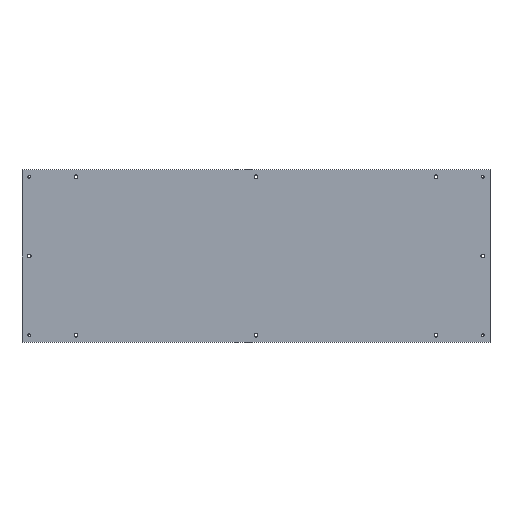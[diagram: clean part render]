
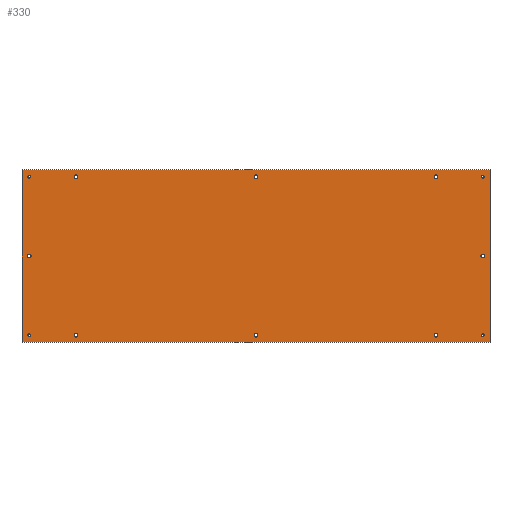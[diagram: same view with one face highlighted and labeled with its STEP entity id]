
A CAD part, top view. The second image highlights one B-rep face of the part: STEP entity #330.
In plain terms, the highlighted planar face has unit normal (0, 0, 1).
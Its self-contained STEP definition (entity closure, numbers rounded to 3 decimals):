
#55=AXIS2_PLACEMENT_3D('Circle Axis2P3D',#53,#54,$) ;
#79=AXIS2_PLACEMENT_3D('Circle Axis2P3D',#77,#78,$) ;
#92=AXIS2_PLACEMENT_3D('Plane Axis2P3D',#89,#90,#91) ;
#130=AXIS2_PLACEMENT_3D('Circle Axis2P3D',#128,#129,$) ;
#139=AXIS2_PLACEMENT_3D('Circle Axis2P3D',#137,#138,$) ;
#148=AXIS2_PLACEMENT_3D('Circle Axis2P3D',#146,#147,$) ;
#157=AXIS2_PLACEMENT_3D('Circle Axis2P3D',#155,#156,$) ;
#166=AXIS2_PLACEMENT_3D('Circle Axis2P3D',#164,#165,$) ;
#175=AXIS2_PLACEMENT_3D('Circle Axis2P3D',#173,#174,$) ;
#184=AXIS2_PLACEMENT_3D('Circle Axis2P3D',#182,#183,$) ;
#193=AXIS2_PLACEMENT_3D('Circle Axis2P3D',#191,#192,$) ;
#206=AXIS2_PLACEMENT_3D('Circle Axis2P3D',#204,#205,$) ;
#215=AXIS2_PLACEMENT_3D('Circle Axis2P3D',#213,#214,$) ;
#224=AXIS2_PLACEMENT_3D('Circle Axis2P3D',#222,#223,$) ;
#233=AXIS2_PLACEMENT_3D('Circle Axis2P3D',#231,#232,$) ;
#242=AXIS2_PLACEMENT_3D('Circle Axis2P3D',#240,#241,$) ;
#251=AXIS2_PLACEMENT_3D('Circle Axis2P3D',#249,#250,$) ;
#260=AXIS2_PLACEMENT_3D('Circle Axis2P3D',#258,#259,$) ;
#269=AXIS2_PLACEMENT_3D('Circle Axis2P3D',#267,#268,$) ;
#278=AXIS2_PLACEMENT_3D('Circle Axis2P3D',#276,#277,$) ;
#287=AXIS2_PLACEMENT_3D('Circle Axis2P3D',#285,#286,$) ;
#296=AXIS2_PLACEMENT_3D('Circle Axis2P3D',#294,#295,$) ;
#305=AXIS2_PLACEMENT_3D('Circle Axis2P3D',#303,#304,$) ;
#314=AXIS2_PLACEMENT_3D('Circle Axis2P3D',#312,#313,$) ;
#323=AXIS2_PLACEMENT_3D('Circle Axis2P3D',#321,#322,$) ;
#50=CARTESIAN_POINT('Vertex',(7.25,-120.,2.)) ;
#53=CARTESIAN_POINT('Axis2P3D Location',(10.,-120.,2.)) ;
#57=CARTESIAN_POINT('Vertex',(12.75,-120.,2.)) ;
#77=CARTESIAN_POINT('Axis2P3D Location',(10.,-120.,2.)) ;
#89=CARTESIAN_POINT('Axis2P3D Location',(0.,0.,2.)) ;
#94=CARTESIAN_POINT('Line Origine',(0.,-120.,2.)) ;
#98=CARTESIAN_POINT('Vertex',(0.,0.,2.)) ;
#100=CARTESIAN_POINT('Vertex',(0.,-240.,2.)) ;
#103=CARTESIAN_POINT('Line Origine',(325.,-240.,2.)) ;
#107=CARTESIAN_POINT('Vertex',(650.,-240.,2.)) ;
#110=CARTESIAN_POINT('Line Origine',(650.,-120.,2.)) ;
#114=CARTESIAN_POINT('Vertex',(650.,0.,2.)) ;
#117=CARTESIAN_POINT('Line Origine',(325.,0.,2.)) ;
#128=CARTESIAN_POINT('Axis2P3D Location',(10.,-230.,2.)) ;
#132=CARTESIAN_POINT('Vertex',(11.75,-230.,2.)) ;
#134=CARTESIAN_POINT('Vertex',(8.25,-230.,2.)) ;
#137=CARTESIAN_POINT('Axis2P3D Location',(10.,-230.,2.)) ;
#146=CARTESIAN_POINT('Axis2P3D Location',(640.,-230.,2.)) ;
#150=CARTESIAN_POINT('Vertex',(641.75,-230.,2.)) ;
#152=CARTESIAN_POINT('Vertex',(638.25,-230.,2.)) ;
#155=CARTESIAN_POINT('Axis2P3D Location',(640.,-230.,2.)) ;
#164=CARTESIAN_POINT('Axis2P3D Location',(10.,-10.,2.)) ;
#168=CARTESIAN_POINT('Vertex',(11.75,-10.,2.)) ;
#170=CARTESIAN_POINT('Vertex',(8.25,-10.,2.)) ;
#173=CARTESIAN_POINT('Axis2P3D Location',(10.,-10.,2.)) ;
#182=CARTESIAN_POINT('Axis2P3D Location',(640.,-10.,2.)) ;
#186=CARTESIAN_POINT('Vertex',(641.75,-10.,2.)) ;
#188=CARTESIAN_POINT('Vertex',(638.25,-10.,2.)) ;
#191=CARTESIAN_POINT('Axis2P3D Location',(640.,-10.,2.)) ;
#204=CARTESIAN_POINT('Axis2P3D Location',(640.,-120.,2.)) ;
#208=CARTESIAN_POINT('Vertex',(642.75,-120.,2.)) ;
#210=CARTESIAN_POINT('Vertex',(637.25,-120.,2.)) ;
#213=CARTESIAN_POINT('Axis2P3D Location',(640.,-120.,2.)) ;
#222=CARTESIAN_POINT('Axis2P3D Location',(75.,-10.,2.)) ;
#226=CARTESIAN_POINT('Vertex',(77.75,-10.,2.)) ;
#228=CARTESIAN_POINT('Vertex',(72.25,-10.,2.)) ;
#231=CARTESIAN_POINT('Axis2P3D Location',(75.,-10.,2.)) ;
#240=CARTESIAN_POINT('Axis2P3D Location',(75.,-230.,2.)) ;
#244=CARTESIAN_POINT('Vertex',(77.75,-230.,2.)) ;
#246=CARTESIAN_POINT('Vertex',(72.25,-230.,2.)) ;
#249=CARTESIAN_POINT('Axis2P3D Location',(75.,-230.,2.)) ;
#258=CARTESIAN_POINT('Axis2P3D Location',(325.,-10.,2.)) ;
#262=CARTESIAN_POINT('Vertex',(327.75,-10.,2.)) ;
#264=CARTESIAN_POINT('Vertex',(322.25,-10.,2.)) ;
#267=CARTESIAN_POINT('Axis2P3D Location',(325.,-10.,2.)) ;
#276=CARTESIAN_POINT('Axis2P3D Location',(325.,-230.,2.)) ;
#280=CARTESIAN_POINT('Vertex',(327.75,-230.,2.)) ;
#282=CARTESIAN_POINT('Vertex',(322.25,-230.,2.)) ;
#285=CARTESIAN_POINT('Axis2P3D Location',(325.,-230.,2.)) ;
#294=CARTESIAN_POINT('Axis2P3D Location',(575.,-10.,2.)) ;
#298=CARTESIAN_POINT('Vertex',(577.75,-10.,2.)) ;
#300=CARTESIAN_POINT('Vertex',(572.25,-10.,2.)) ;
#303=CARTESIAN_POINT('Axis2P3D Location',(575.,-10.,2.)) ;
#312=CARTESIAN_POINT('Axis2P3D Location',(575.,-230.,2.)) ;
#316=CARTESIAN_POINT('Vertex',(577.75,-230.,2.)) ;
#318=CARTESIAN_POINT('Vertex',(572.25,-230.,2.)) ;
#321=CARTESIAN_POINT('Axis2P3D Location',(575.,-230.,2.)) ;
#54=DIRECTION('Axis2P3D Direction',(0.,0.,1.)) ;
#78=DIRECTION('Axis2P3D Direction',(0.,0.,1.)) ;
#90=DIRECTION('Axis2P3D Direction',(0.,0.,1.)) ;
#91=DIRECTION('Axis2P3D XDirection',(1.,0.,0.)) ;
#95=DIRECTION('Vector Direction',(0.,-1.,0.)) ;
#104=DIRECTION('Vector Direction',(-1.,0.,0.)) ;
#111=DIRECTION('Vector Direction',(0.,1.,0.)) ;
#118=DIRECTION('Vector Direction',(1.,0.,0.)) ;
#129=DIRECTION('Axis2P3D Direction',(0.,0.,1.)) ;
#138=DIRECTION('Axis2P3D Direction',(0.,0.,1.)) ;
#147=DIRECTION('Axis2P3D Direction',(0.,0.,1.)) ;
#156=DIRECTION('Axis2P3D Direction',(0.,0.,1.)) ;
#165=DIRECTION('Axis2P3D Direction',(0.,0.,1.)) ;
#174=DIRECTION('Axis2P3D Direction',(0.,0.,1.)) ;
#183=DIRECTION('Axis2P3D Direction',(0.,0.,1.)) ;
#192=DIRECTION('Axis2P3D Direction',(0.,0.,1.)) ;
#205=DIRECTION('Axis2P3D Direction',(0.,0.,1.)) ;
#214=DIRECTION('Axis2P3D Direction',(0.,0.,1.)) ;
#223=DIRECTION('Axis2P3D Direction',(0.,0.,1.)) ;
#232=DIRECTION('Axis2P3D Direction',(0.,0.,1.)) ;
#241=DIRECTION('Axis2P3D Direction',(0.,0.,1.)) ;
#250=DIRECTION('Axis2P3D Direction',(0.,0.,1.)) ;
#259=DIRECTION('Axis2P3D Direction',(0.,0.,1.)) ;
#268=DIRECTION('Axis2P3D Direction',(0.,0.,1.)) ;
#277=DIRECTION('Axis2P3D Direction',(0.,0.,1.)) ;
#286=DIRECTION('Axis2P3D Direction',(0.,0.,1.)) ;
#295=DIRECTION('Axis2P3D Direction',(0.,0.,1.)) ;
#304=DIRECTION('Axis2P3D Direction',(0.,0.,1.)) ;
#313=DIRECTION('Axis2P3D Direction',(0.,0.,1.)) ;
#322=DIRECTION('Axis2P3D Direction',(0.,0.,1.)) ;
#96=VECTOR('Line Direction',#95,1.) ;
#105=VECTOR('Line Direction',#104,1.) ;
#112=VECTOR('Line Direction',#111,1.) ;
#119=VECTOR('Line Direction',#118,1.) ;
#123=ORIENTED_EDGE('',*,*,#102,.T.) ;
#124=ORIENTED_EDGE('',*,*,#109,.T.) ;
#125=ORIENTED_EDGE('',*,*,#116,.T.) ;
#126=ORIENTED_EDGE('',*,*,#121,.T.) ;
#143=ORIENTED_EDGE('',*,*,#136,.F.) ;
#144=ORIENTED_EDGE('',*,*,#141,.F.) ;
#161=ORIENTED_EDGE('',*,*,#154,.F.) ;
#162=ORIENTED_EDGE('',*,*,#159,.F.) ;
#179=ORIENTED_EDGE('',*,*,#172,.F.) ;
#180=ORIENTED_EDGE('',*,*,#177,.F.) ;
#197=ORIENTED_EDGE('',*,*,#190,.F.) ;
#198=ORIENTED_EDGE('',*,*,#195,.F.) ;
#201=ORIENTED_EDGE('',*,*,#81,.F.) ;
#202=ORIENTED_EDGE('',*,*,#59,.F.) ;
#219=ORIENTED_EDGE('',*,*,#212,.F.) ;
#220=ORIENTED_EDGE('',*,*,#217,.F.) ;
#237=ORIENTED_EDGE('',*,*,#230,.F.) ;
#238=ORIENTED_EDGE('',*,*,#235,.F.) ;
#255=ORIENTED_EDGE('',*,*,#248,.F.) ;
#256=ORIENTED_EDGE('',*,*,#253,.F.) ;
#273=ORIENTED_EDGE('',*,*,#266,.F.) ;
#274=ORIENTED_EDGE('',*,*,#271,.F.) ;
#291=ORIENTED_EDGE('',*,*,#284,.F.) ;
#292=ORIENTED_EDGE('',*,*,#289,.F.) ;
#309=ORIENTED_EDGE('',*,*,#302,.F.) ;
#310=ORIENTED_EDGE('',*,*,#307,.F.) ;
#327=ORIENTED_EDGE('',*,*,#320,.F.) ;
#328=ORIENTED_EDGE('',*,*,#325,.F.) ;
#145=FACE_BOUND('',#142,.T.) ;
#163=FACE_BOUND('',#160,.T.) ;
#181=FACE_BOUND('',#178,.T.) ;
#199=FACE_BOUND('',#196,.T.) ;
#203=FACE_BOUND('',#200,.T.) ;
#221=FACE_BOUND('',#218,.T.) ;
#239=FACE_BOUND('',#236,.T.) ;
#257=FACE_BOUND('',#254,.T.) ;
#275=FACE_BOUND('',#272,.T.) ;
#293=FACE_BOUND('',#290,.T.) ;
#311=FACE_BOUND('',#308,.T.) ;
#329=FACE_BOUND('',#326,.T.) ;
#330=ADVANCED_FACE('\X2\96F64EF651E04F554F53\X0\',(#127,#145,#163,#181,#199,#203,#221,#239,#257,#275,#293,#311,#329),#93,.T.) ;
#56=CIRCLE('generated circle',#55,2.75) ;
#80=CIRCLE('generated circle',#79,2.75) ;
#131=CIRCLE('generated circle',#130,1.75) ;
#140=CIRCLE('generated circle',#139,1.75) ;
#149=CIRCLE('generated circle',#148,1.75) ;
#158=CIRCLE('generated circle',#157,1.75) ;
#167=CIRCLE('generated circle',#166,1.75) ;
#176=CIRCLE('generated circle',#175,1.75) ;
#185=CIRCLE('generated circle',#184,1.75) ;
#194=CIRCLE('generated circle',#193,1.75) ;
#207=CIRCLE('generated circle',#206,2.75) ;
#216=CIRCLE('generated circle',#215,2.75) ;
#225=CIRCLE('generated circle',#224,2.75) ;
#234=CIRCLE('generated circle',#233,2.75) ;
#243=CIRCLE('generated circle',#242,2.75) ;
#252=CIRCLE('generated circle',#251,2.75) ;
#261=CIRCLE('generated circle',#260,2.75) ;
#270=CIRCLE('generated circle',#269,2.75) ;
#279=CIRCLE('generated circle',#278,2.75) ;
#288=CIRCLE('generated circle',#287,2.75) ;
#297=CIRCLE('generated circle',#296,2.75) ;
#306=CIRCLE('generated circle',#305,2.75) ;
#315=CIRCLE('generated circle',#314,2.75) ;
#324=CIRCLE('generated circle',#323,2.75) ;
#59=EDGE_CURVE('',#51,#58,#56,.T.) ;
#81=EDGE_CURVE('',#58,#51,#80,.T.) ;
#102=EDGE_CURVE('',#99,#101,#97,.T.) ;
#109=EDGE_CURVE('',#101,#108,#106,.F.) ;
#116=EDGE_CURVE('',#108,#115,#113,.T.) ;
#121=EDGE_CURVE('',#115,#99,#120,.F.) ;
#136=EDGE_CURVE('',#133,#135,#131,.T.) ;
#141=EDGE_CURVE('',#135,#133,#140,.T.) ;
#154=EDGE_CURVE('',#151,#153,#149,.T.) ;
#159=EDGE_CURVE('',#153,#151,#158,.T.) ;
#172=EDGE_CURVE('',#169,#171,#167,.T.) ;
#177=EDGE_CURVE('',#171,#169,#176,.T.) ;
#190=EDGE_CURVE('',#187,#189,#185,.T.) ;
#195=EDGE_CURVE('',#189,#187,#194,.T.) ;
#212=EDGE_CURVE('',#209,#211,#207,.T.) ;
#217=EDGE_CURVE('',#211,#209,#216,.T.) ;
#230=EDGE_CURVE('',#227,#229,#225,.T.) ;
#235=EDGE_CURVE('',#229,#227,#234,.T.) ;
#248=EDGE_CURVE('',#245,#247,#243,.T.) ;
#253=EDGE_CURVE('',#247,#245,#252,.T.) ;
#266=EDGE_CURVE('',#263,#265,#261,.T.) ;
#271=EDGE_CURVE('',#265,#263,#270,.T.) ;
#284=EDGE_CURVE('',#281,#283,#279,.T.) ;
#289=EDGE_CURVE('',#283,#281,#288,.T.) ;
#302=EDGE_CURVE('',#299,#301,#297,.T.) ;
#307=EDGE_CURVE('',#301,#299,#306,.T.) ;
#320=EDGE_CURVE('',#317,#319,#315,.T.) ;
#325=EDGE_CURVE('',#319,#317,#324,.T.) ;
#122=EDGE_LOOP('',(#123,#124,#125,#126)) ;
#142=EDGE_LOOP('',(#143,#144)) ;
#160=EDGE_LOOP('',(#161,#162)) ;
#178=EDGE_LOOP('',(#179,#180)) ;
#196=EDGE_LOOP('',(#197,#198)) ;
#200=EDGE_LOOP('',(#201,#202)) ;
#218=EDGE_LOOP('',(#219,#220)) ;
#236=EDGE_LOOP('',(#237,#238)) ;
#254=EDGE_LOOP('',(#255,#256)) ;
#272=EDGE_LOOP('',(#273,#274)) ;
#290=EDGE_LOOP('',(#291,#292)) ;
#308=EDGE_LOOP('',(#309,#310)) ;
#326=EDGE_LOOP('',(#327,#328)) ;
#127=FACE_OUTER_BOUND('',#122,.T.) ;
#97=LINE('Line',#94,#96) ;
#106=LINE('Line',#103,#105) ;
#113=LINE('Line',#110,#112) ;
#120=LINE('Line',#117,#119) ;
#93=PLANE('',#92) ;
#51=VERTEX_POINT('',#50) ;
#58=VERTEX_POINT('',#57) ;
#99=VERTEX_POINT('',#98) ;
#101=VERTEX_POINT('',#100) ;
#108=VERTEX_POINT('',#107) ;
#115=VERTEX_POINT('',#114) ;
#133=VERTEX_POINT('',#132) ;
#135=VERTEX_POINT('',#134) ;
#151=VERTEX_POINT('',#150) ;
#153=VERTEX_POINT('',#152) ;
#169=VERTEX_POINT('',#168) ;
#171=VERTEX_POINT('',#170) ;
#187=VERTEX_POINT('',#186) ;
#189=VERTEX_POINT('',#188) ;
#209=VERTEX_POINT('',#208) ;
#211=VERTEX_POINT('',#210) ;
#227=VERTEX_POINT('',#226) ;
#229=VERTEX_POINT('',#228) ;
#245=VERTEX_POINT('',#244) ;
#247=VERTEX_POINT('',#246) ;
#263=VERTEX_POINT('',#262) ;
#265=VERTEX_POINT('',#264) ;
#281=VERTEX_POINT('',#280) ;
#283=VERTEX_POINT('',#282) ;
#299=VERTEX_POINT('',#298) ;
#301=VERTEX_POINT('',#300) ;
#317=VERTEX_POINT('',#316) ;
#319=VERTEX_POINT('',#318) ;
